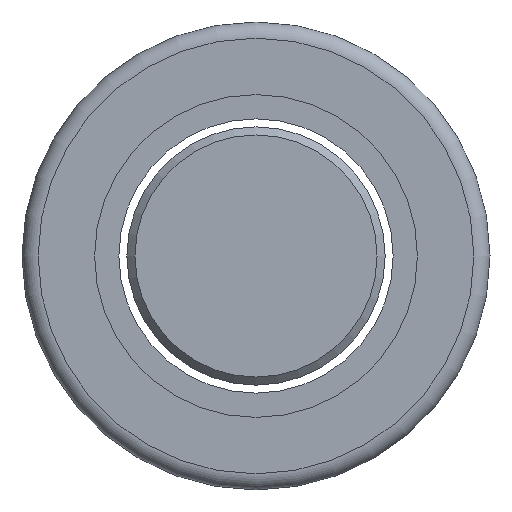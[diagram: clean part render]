
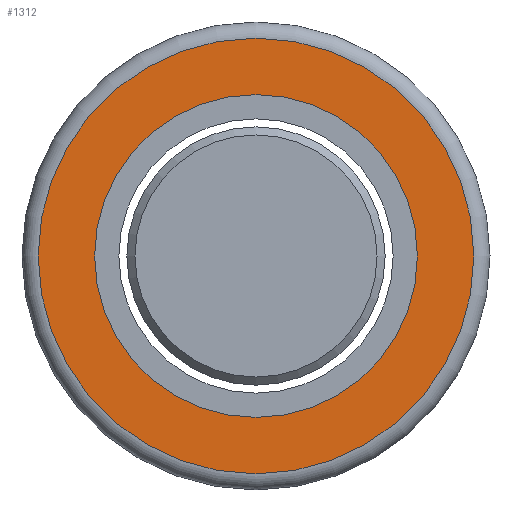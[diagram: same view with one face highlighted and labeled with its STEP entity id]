
A CAD part, left-side view. The second image highlights one B-rep face of the part: STEP entity #1312.
In plain terms, the highlighted planar face has unit normal (-1, 0, 0).
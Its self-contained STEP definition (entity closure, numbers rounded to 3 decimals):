
#51 = CARTESIAN_POINT ( 'NONE',  ( -42., 0., 0. ) ) ;
#152 = AXIS2_PLACEMENT_3D ( 'NONE', #51, #274, #825 ) ;
#274 = DIRECTION ( 'NONE',  ( 1., 0., 0. ) ) ;
#314 = CIRCLE ( 'NONE', #152, 13.5 ) ;
#384 = EDGE_CURVE ( 'NONE', #3377, #3377, #314, .T. ) ;
#428 = CIRCLE ( 'NONE', #1444, 10. ) ;
#652 = ORIENTED_EDGE ( 'NONE', *, *, #384, .F. ) ;
#825 = DIRECTION ( 'NONE',  ( 0., 1., 0. ) ) ;
#936 = DIRECTION ( 'NONE',  ( 0., 1., 0. ) ) ;
#988 = CARTESIAN_POINT ( 'NONE',  ( -42., 13.5, 0. ) ) ;
#1204 = EDGE_CURVE ( 'NONE', #2601, #2601, #428, .T. ) ;
#1312 = ADVANCED_FACE ( 'NONE', ( #1928, #1703 ), #2243, .F. ) ;
#1444 = AXIS2_PLACEMENT_3D ( 'NONE', #3025, #1963, #936 ) ;
#1703 = FACE_OUTER_BOUND ( 'NONE', #2682, .T. ) ;
#1830 = AXIS2_PLACEMENT_3D ( 'NONE', #3307, #3043, #2733 ) ;
#1928 = FACE_BOUND ( 'NONE', #2520, .T. ) ;
#1963 = DIRECTION ( 'NONE',  ( 1., 0., 0. ) ) ;
#1966 = ORIENTED_EDGE ( 'NONE', *, *, #1204, .T. ) ;
#2243 = PLANE ( 'NONE',  #1830 ) ;
#2520 = EDGE_LOOP ( 'NONE', ( #1966 ) ) ;
#2601 = VERTEX_POINT ( 'NONE', #2883 ) ;
#2682 = EDGE_LOOP ( 'NONE', ( #652 ) ) ;
#2733 = DIRECTION ( 'NONE',  ( 0., 1., 0. ) ) ;
#2883 = CARTESIAN_POINT ( 'NONE',  ( -42., 10., 0. ) ) ;
#3025 = CARTESIAN_POINT ( 'NONE',  ( -42., 0., 0. ) ) ;
#3043 = DIRECTION ( 'NONE',  ( 1., 0., 0. ) ) ;
#3307 = CARTESIAN_POINT ( 'NONE',  ( -42., 11.75, 0. ) ) ;
#3377 = VERTEX_POINT ( 'NONE', #988 ) ;
